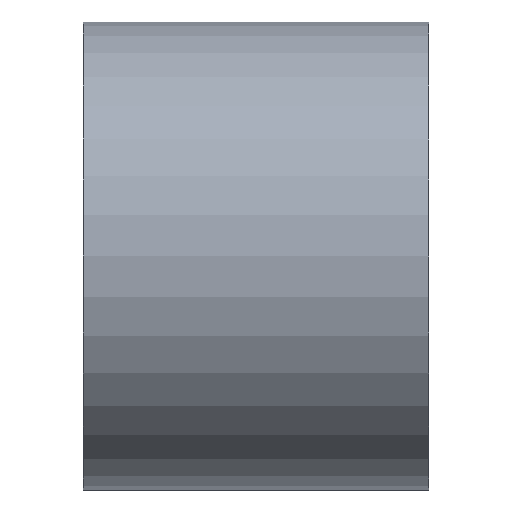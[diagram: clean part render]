
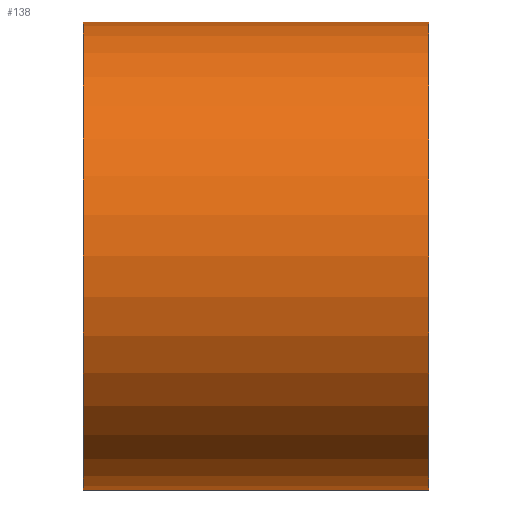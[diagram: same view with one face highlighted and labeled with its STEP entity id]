
A CAD part, front view. The second image highlights one B-rep face of the part: STEP entity #138.
In plain terms, the highlighted cylindrical face has radius 305 mm (diameter 610 mm), a partial arc.
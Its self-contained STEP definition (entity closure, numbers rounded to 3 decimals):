
#138=ADVANCED_FACE('',(#278),#279,.T.);
#278=FACE_OUTER_BOUND('',#429,.T.);
#279=CYLINDRICAL_SURFACE('',#430,305.0);
#429=EDGE_LOOP('',(#775,#776,#777,#778));
#430=AXIS2_PLACEMENT_3D('',#779,#780,#781);
#775=ORIENTED_EDGE('',*,*,#831,.T.);
#776=ORIENTED_EDGE('',*,*,#973,.F.);
#777=ORIENTED_EDGE('',*,*,#833,.T.);
#778=ORIENTED_EDGE('',*,*,#974,.F.);
#779=CARTESIAN_POINT('',(0.0,0.0,0.0));
#780=DIRECTION('',(1.0,0.0,0.0));
#781=DIRECTION('',(0.0,0.0,-1.0));
#831=EDGE_CURVE('',#978,#979,#980,.T.);
#833=EDGE_CURVE('',#983,#981,#984,.T.);
#973=EDGE_CURVE('',#983,#979,#1191,.T.);
#974=EDGE_CURVE('',#978,#981,#1192,.T.);
#978=VERTEX_POINT('',#1196);
#979=VERTEX_POINT('',#1197);
#980=LINE('',#1198,#1199);
#981=VERTEX_POINT('',#1200);
#983=VERTEX_POINT('',#1202);
#984=LINE('',#1203,#1204);
#1191=CIRCLE('',#1455,305.0);
#1192=CIRCLE('',#1456,305.0);
#1196=CARTESIAN_POINT('',(-225.0,0.0,-305.0));
#1197=CARTESIAN_POINT('',(225.0,0.0,-305.0));
#1198=CARTESIAN_POINT('',(0.0,0.,-305.0));
#1199=VECTOR('',#1459,1.0);
#1200=CARTESIAN_POINT('',(-225.0,0.,305.0));
#1202=CARTESIAN_POINT('',(225.0,0.,305.0));
#1203=CARTESIAN_POINT('',(0.0,0.,305.0));
#1204=VECTOR('',#1463,1.0);
#1455=AXIS2_PLACEMENT_3D('',#1682,#1683,#1684);
#1456=AXIS2_PLACEMENT_3D('',#1685,#1686,#1687);
#1459=DIRECTION('',(1.0,0.0,0.0));
#1463=DIRECTION('',(-1.0,-0.0,-0.0));
#1682=CARTESIAN_POINT('',(225.0,0.0,0.0));
#1683=DIRECTION('',(1.0,0.0,0.0));
#1684=DIRECTION('',(0.0,0.0,-1.0));
#1685=CARTESIAN_POINT('',(-225.0,0.0,0.0));
#1686=DIRECTION('',(-1.0,0.0,0.0));
#1687=DIRECTION('',(0.0,0.0,-1.0));
